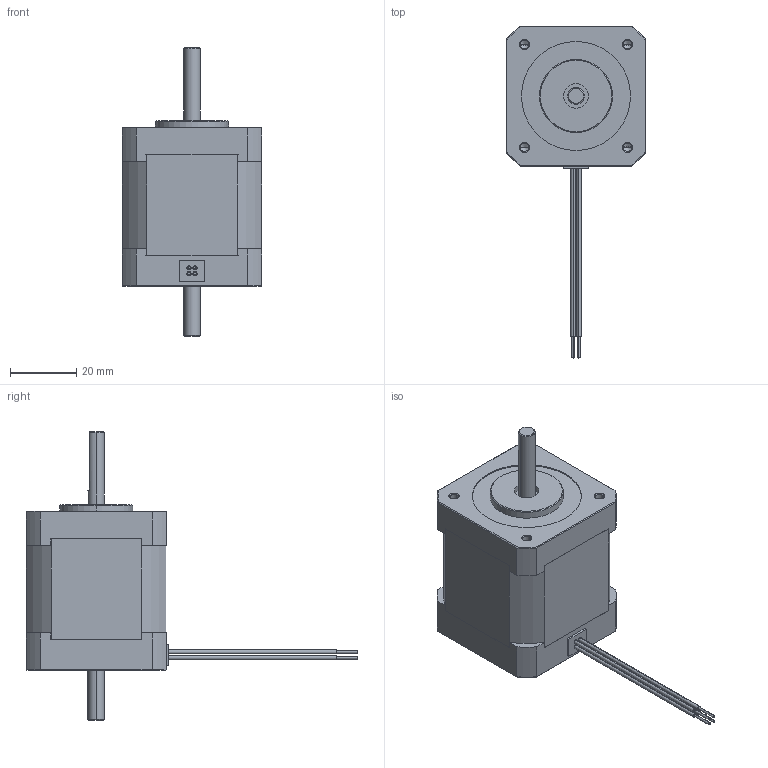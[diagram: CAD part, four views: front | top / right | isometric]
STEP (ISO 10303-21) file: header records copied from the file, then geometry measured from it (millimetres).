
FILE_DESCRIPTION (( 'STEP AP214' ), '1' );
FILE_NAME ('17Y302D-LW4.STEP', '2010-05-11T21:14:04', ( 'Tim Raines' ), ( 'Anaheim Automation' ), 'SwSTEP 2.0', 'SolidWorks 2010', '' );
FILE_SCHEMA (( 'AUTOMOTIVE_DESIGN' ));
Length unit declared in the file: inch
Products named in the file (1): 17Y302D-LW4
Bounding box: 42.16 x 99.95 x 86.87 mm (x, y, z)
Volume: 83157.1 mm3; surface area: 13632.6 mm2
Topology: 1 solids, 1 shells, 244 faces, 577 edges, 358 vertices
Faces by surface type: plane 113, cylinder 76, cone 47, torus 8
Entity records: 9993 total; most frequent: DIRECTION 1242, CARTESIAN_POINT 1222, ORIENTED_EDGE 1130, EDGE_CURVE 565, AXIS2_PLACEMENT_3D 450, VERTEX_POINT 358, VECTOR 342, LINE 342
